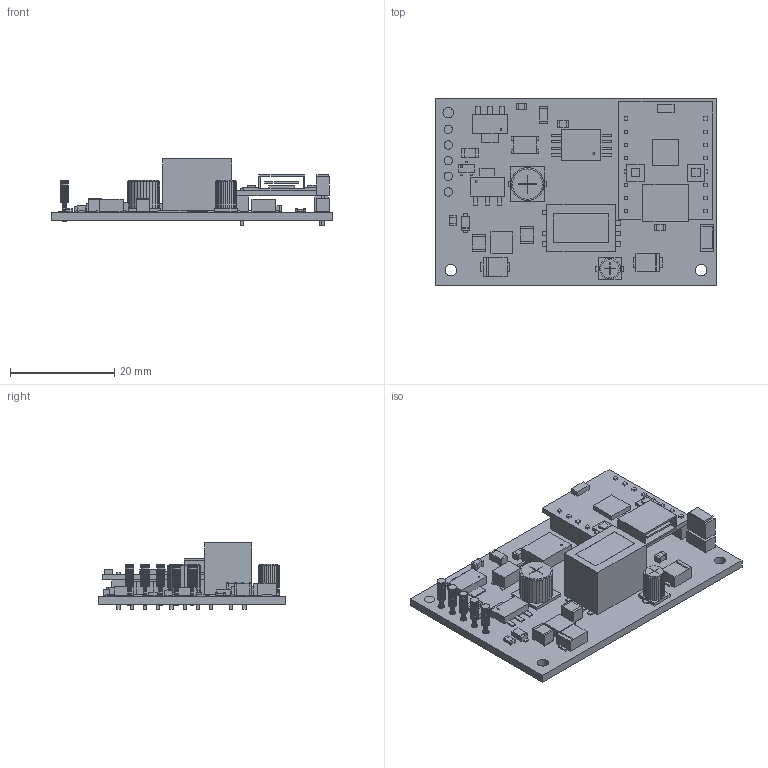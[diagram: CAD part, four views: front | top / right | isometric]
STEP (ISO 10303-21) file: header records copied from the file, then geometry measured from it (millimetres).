
FILE_DESCRIPTION(('FreeCAD Model'),'2;1');
FILE_NAME('Open CASCADE Shape Model','2026-09-21T21:53:17',('FreeCAD'),( 'FreeCAD'),'Open CASCADE STEP processor 7.8','FreeCAD','Unknown');
FILE_SCHEMA(('AUTOMOTIVE_DESIGN { 1 0 10303 214 1 1 1 1 }'));
Length unit declared in the file: millimetre
Products named in the file (1): Open CASCADE STEP translator 7.8 29
Bounding box: 54 x 36 x 12.72 mm (x, y, z)
Volume: 5997.8 mm3; surface area: 9462.4 mm2
Topology: 154 solids, 154 shells, 1417 faces, 3327 edges, 2218 vertices
Faces by surface type: plane 1392, cylinder 25
Full cylindrical faces by diameter (mm): 1 x18, 1.3 x5, 2.2 x2
Entity records: 39535 total; most frequent: CARTESIAN_POINT 6963, ORIENTED_EDGE 6654, DIRECTION 6213, EDGE_CURVE 3327, LINE 3277, VECTOR 3277, VERTEX_POINT 2218, AXIS2_PLACEMENT_3D 1468
